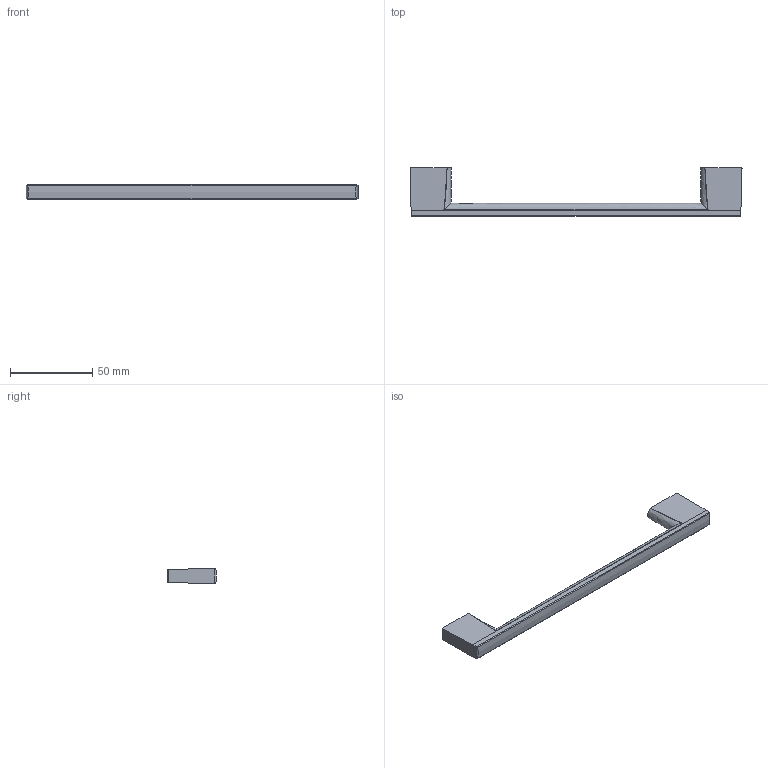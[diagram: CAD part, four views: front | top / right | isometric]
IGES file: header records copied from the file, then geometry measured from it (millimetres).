
Start section: Data from Parasolid IGES Translator 15.0.47, Copyright(c) 2006 Siemens P LM Software. All Rights Reserved.
Global section: file name: 9995772.igs; native system:  By UGS Corp.; preprocessor: XPlus GENERIC/IGES 3.0; author: Noname; organization: Noname; date: 20140122.172225; units: millimetre
Bounding box: 201.27 x 29.6 x 9 mm (x, y, z)
Surface area: 9371.5 mm2 (no closed solid volume)
Topology: 0 solids, 0 shells, 29 faces, 142 edges, 136 vertices
Faces by surface type: revolution 16, extrusion 13
